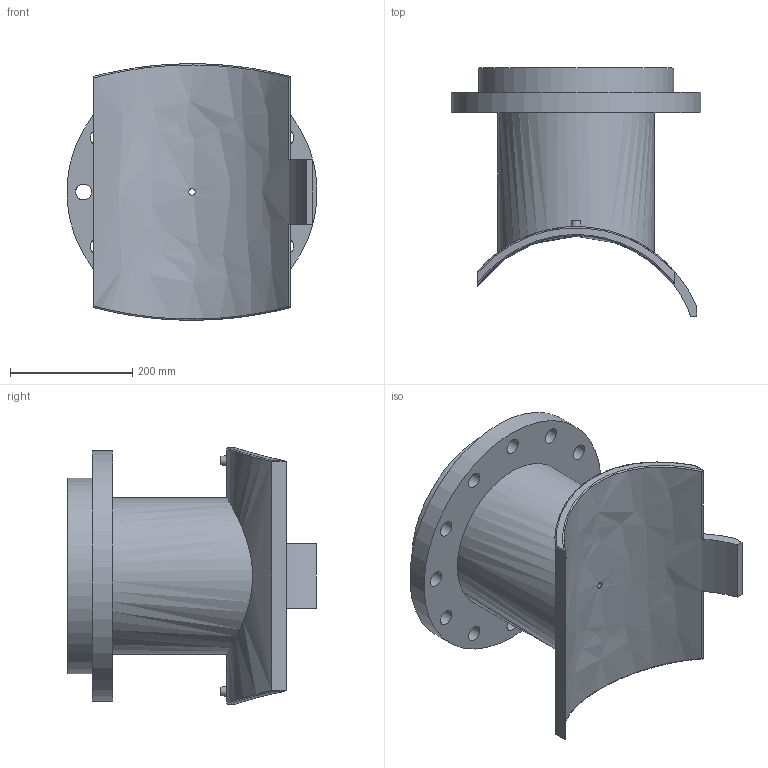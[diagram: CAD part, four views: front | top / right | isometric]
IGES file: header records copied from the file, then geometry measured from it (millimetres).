
Global section: file name: 495903400250T; native system: Autodesk Inventor 2019; preprocessor: unknown; author: KIM; date: 20240403.210335; units: millimetre
Bounding box: 409.16 x 406.21 x 419.89 mm (x, y, z)
Volume: 11183903.1 mm3; surface area: 964334.5 mm2
Topology: 1 solids, 1 shells, 62 faces, 163 edges, 126 vertices
Faces by surface type: bspline 62
